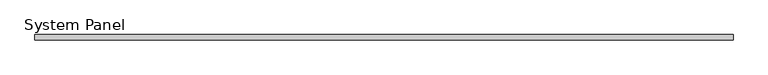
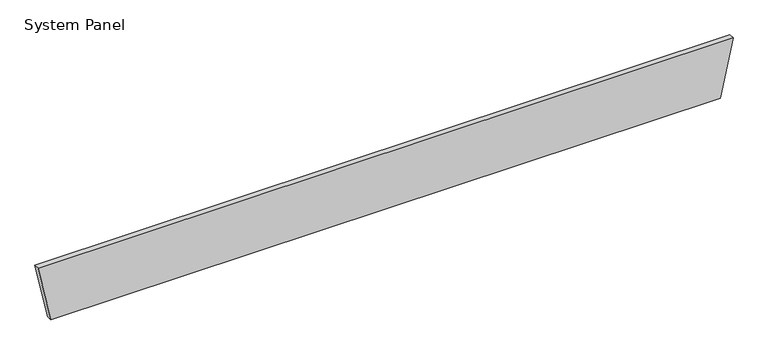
"""IFC4 building model written with IfcOpenShell, lengths in millimetres: plate geometry, System Panel : MetecnoPanel_100mm_Plain_Surfmist."""

import ifcopenshell
import ifcopenshell.guid

model = None  # the IFC model being written
_history = None  # IfcOwnerHistory: only IFC2X3 demands one
_inside = {}  # id of a spatial element -> (the spatial element, [elements in it])
_under = {}  # id of a project, library or spatial element -> (it, [spatial elements below it])
_declared = {}  # id of a project -> (the project, [libraries it declares])
_typed = {}  # id of a type object -> (the type object, [elements of that type])
_made_of = {}  # id of a material, layer set ... -> (it, [elements and type objects made of it])


def new_model(schema):
    """Start an empty IFC model of exactly this schema.

    Asked for "IFC4X3", IfcOpenShell would pick the latest addendum, in which some entities
    have other attributes; the version numbers below select the first issue.
    IFC2X3 requires an IfcOwnerHistory on every rooted entity: one is made here for all.
    """
    global model, _history
    if schema == "IFC4X3":
        model = ifcopenshell.file(schema_version=(4, 3, 0, 0))
    else:
        model = ifcopenshell.file(schema=schema)
    _inside.clear()
    _under.clear()
    _declared.clear()
    _typed.clear()
    _made_of.clear()
    _history = None
    if model.schema == "IFC2X3":
        org = make("IfcOrganization", Name="unknown")
        user = make(
            "IfcPersonAndOrganization",
            ThePerson=make("IfcPerson", FamilyName="unknown"),
            TheOrganization=org,
        )
        app = make(
            "IfcApplication",
            ApplicationDeveloper=org,
            Version="unknown",
            ApplicationFullName="unknown",
            ApplicationIdentifier="unknown",
        )
        _history = make(
            "IfcOwnerHistory",
            OwningUser=user,
            OwningApplication=app,
            ChangeAction="ADDED",
            CreationDate=0,
        )
    return model


def make(cls, **values):
    """One entity of the class cls with the attributes given. An attribute that is None is left unset."""
    return model.create_entity(
        cls, **{name: value for name, value in values.items() if value is not None}
    )


def rooted(cls, **values):
    """An entity with a GlobalId (a new one), such as an element, a storey or a relation."""
    return make(cls, GlobalId=ifcopenshell.guid.new(), OwnerHistory=_history, **values)


def si_unit(unit_type, name, prefix=None):
    """IfcSIUnit, for example si_unit("LENGTHUNIT", "METRE", prefix="MILLI")."""
    return make("IfcSIUnit", UnitType=unit_type, Prefix=prefix, Name=name)


def assignment(units):
    """IfcUnitAssignment: the units of a project."""
    return None if units is None else make("IfcUnitAssignment", Units=units)


def point(xyz):
    """IfcCartesianPoint."""
    return None if xyz is None else make("IfcCartesianPoint", Coordinates=xyz)


def direction(xyz):
    """IfcDirection."""
    return None if xyz is None else make("IfcDirection", DirectionRatios=xyz)


def frame(location, z_axis=None, x_axis=None):
    """IfcAxis2Placement3D, a coordinate frame: its origin and axes. An axis left out is left unset."""
    return make(
        "IfcAxis2Placement3D",
        Location=point(location),
        Axis=direction(z_axis),
        RefDirection=direction(x_axis),
    )


def origin():
    """The frame at (0, 0, 0) with its axes left unset."""
    return frame((0.0, 0.0, 0.0))


def place(relative_to, where):
    """IfcLocalPlacement: puts the frame where relative to a parent placement (None: the world)."""
    return make(
        "IfcLocalPlacement", PlacementRelTo=relative_to, RelativePlacement=where
    )


def context(
    kind, dimensions, precision=None, world=None, true_north=None, identifier=None
):
    """IfcGeometricRepresentationContext, for example the 3D "Model" context."""
    return make(
        "IfcGeometricRepresentationContext",
        ContextIdentifier=identifier,
        ContextType=kind,
        CoordinateSpaceDimension=dimensions,
        Precision=precision,
        WorldCoordinateSystem=world,
        TrueNorth=true_north,
    )


def project(units=None, contexts=None):
    """IfcProject with its units and contexts."""
    return rooted(
        "IfcProject",
        Name="project",
        RepresentationContexts=contexts,
        UnitsInContext=assignment(units),
    )


def spatial(cls, under=None, at=None, **own):
    """A site, building, storey or space (cls), placed at a placement, below another one or the project."""
    s = rooted(cls, ObjectPlacement=at, **own)
    if under is not None:
        _under.setdefault(under.id(), (under, []))[1].append(s)
    return s


def polyline(points):
    """IfcPolyline through the points."""
    return make("IfcPolyline", Points=[point(p) for p in points])


def outline(outer, holes=None, kind="AREA"):
    """IfcArbitraryClosedProfileDef: a profile drawn as a closed curve; with holes, ...WithVoids."""
    if holes is None:
        return make("IfcArbitraryClosedProfileDef", ProfileType=kind, OuterCurve=outer)
    return make(
        "IfcArbitraryProfileDefWithVoids",
        ProfileType=kind,
        OuterCurve=outer,
        InnerCurves=holes,
    )


def extrude(swept, where, along, depth):
    """IfcExtrudedAreaSolid: the profile swept, set in the frame where, extruded along a direction by depth."""
    return make(
        "IfcExtrudedAreaSolid",
        SweptArea=swept,
        Position=where,
        ExtrudedDirection=direction(along),
        Depth=depth,
    )


def shape(context_of_items, identifier, shape_type, items):
    """IfcShapeRepresentation: the items that make up one representation, for example the "Body"."""
    return make(
        "IfcShapeRepresentation",
        ContextOfItems=context_of_items,
        RepresentationIdentifier=identifier,
        RepresentationType=shape_type,
        Items=items,
    )


def source(mapping_origin, context_of_items, identifier, shape_type, items):
    """IfcRepresentationMap: a shape defined once, which mapped items show again and again."""
    return make(
        "IfcRepresentationMap",
        MappingOrigin=mapping_origin,
        MappedRepresentation=shape(context_of_items, identifier, shape_type, items),
    )


def transform(
    local_origin,
    x_axis=None,
    y_axis=None,
    z_axis=None,
    scale=None,
    scale2=None,
    scale3=None,
    uniform=True,
):
    """IfcCartesianTransformationOperator3D, or its non-uniform kind. x_axis, y_axis, z_axis: its Axis1, 2, 3."""
    if uniform:
        return make(
            "IfcCartesianTransformationOperator3D",
            Axis1=direction(x_axis),
            Axis2=direction(y_axis),
            LocalOrigin=point(local_origin),
            Scale=scale,
            Axis3=direction(z_axis),
        )
    return make(
        "IfcCartesianTransformationOperator3DnonUniform",
        Axis1=direction(x_axis),
        Axis2=direction(y_axis),
        LocalOrigin=point(local_origin),
        Scale=scale,
        Axis3=direction(z_axis),
        Scale2=scale2,
        Scale3=scale3,
    )


def mapped(mapping_source, mapping_target):
    """IfcMappedItem: shows the shape of a source again, moved by a transform."""
    return make(
        "IfcMappedItem", MappingSource=mapping_source, MappingTarget=mapping_target
    )


def made_of(thing, what):
    """Note that an element or type object is made of a material, layer set ...; save() writes the relation."""
    if what is not None:
        _made_of.setdefault(what.id(), (what, []))[1].append(thing)
    return thing


def element(
    cls,
    number,
    at=None,
    inside=None,
    cuts=None,
    type_object=None,
    material=None,
    context=None,
    identifier="Body",
    shape_type=None,
    held_by="IfcProductDefinitionShape",
    body=None,
    shapes=None,
    **own,
):
    """One element of the class cls, such as IfcWall. Its Tag is "e" and its number.

    at: its placement. inside: the storey or other place that contains it. cuts: it is an
    opening in that element (IfcRelVoidsElement). A single representation is given by context,
    identifier, shape_type and body (its items); several are given by shapes. held_by: the class
    of the entity that holds the representations. save() writes the other relations.
    """
    e = rooted(cls, Tag="e%d" % number, ObjectPlacement=at, **own)
    if body is not None:
        shapes = [shape(context, identifier, shape_type, body)]
    if shapes is not None:
        e.Representation = make(held_by, Representations=shapes)
    if inside is not None:
        _inside.setdefault(inside.id(), (inside, []))[1].append(e)
    if cuts is not None:
        rooted(
            "IfcRelVoidsElement", RelatingBuildingElement=cuts, RelatedOpeningElement=e
        )
    if type_object is not None:
        _typed.setdefault(type_object.id(), (type_object, []))[1].append(e)
    return made_of(e, material)


def aggregate(whole, parts):
    """IfcRelAggregates: a whole, such as a stair, and the parts it consists of."""
    return rooted("IfcRelAggregates", RelatingObject=whole, RelatedObjects=parts)


def save(model, path):
    """Write the relations noted so far, then the file.

    IfcRelAggregates (storeys below a building ...), IfcRelContainedInSpatialStructure (elements
    in a storey), IfcRelDefinesByType, IfcRelAssociatesMaterial and IfcRelDeclares: one each for
    every whole, place, type object, material and project.
    """
    for whole, parts in _under.values():
        aggregate(whole, parts)
    for where, things in _inside.values():
        rooted(
            "IfcRelContainedInSpatialStructure",
            RelatedElements=things,
            RelatingStructure=where,
        )
    for kind, things in _typed.values():
        rooted("IfcRelDefinesByType", RelatedObjects=things, RelatingType=kind)
    for what, things in _made_of.values():
        rooted("IfcRelAssociatesMaterial", RelatedObjects=things, RelatingMaterial=what)
    for by, libraries in _declared.values():
        rooted("IfcRelDeclares", RelatingContext=by, RelatedDefinitions=libraries)
    model.write(path)


def system_panel_222113f3(model_context):
    return source(origin(), model_context, "Body", "SweptSolid", [
        extrude(outline(polyline([(0.0, -6239.1323567), (0.0, 6239.1323567), (1100.0, 6478.2647134), (1100.0, -6478.2647134), (0.0, -6239.1323567)])), frame((0.0, -100.0, 0.0), z_axis=(0.0, 1.0, 0.0), x_axis=(0.0, 0.0, 1.0)), (0.0, 0.0, 1.0), 100.0),
    ])


if __name__ == "__main__":
    model = new_model("IFC4")
    model_context = context("Model", 3, world=origin())
    ifc_project = project(units=[si_unit("LENGTHUNIT", "METRE", prefix="MILLI")], contexts=[model_context])
    site = spatial("IfcSite", under=ifc_project)
    building = spatial("IfcBuilding", under=site)
    placement = place(None, origin())
    system_panel_shape = system_panel_222113f3(model_context)
    element("IfcPlate", 1, ObjectType="System Panel : MetecnoPanel_100mm_Plain_Surfmist", at=placement, inside=building, context=model_context, shape_type="MappedRepresentation", body=[
        mapped(system_panel_shape, transform((0.0, 0.0, 0.0), x_axis=(1.0, 0.0, 0.0), y_axis=(0.0, 1.0, 0.0), z_axis=(0.0, 0.0, 1.0))),
    ])
    save(model, "model.ifc")
